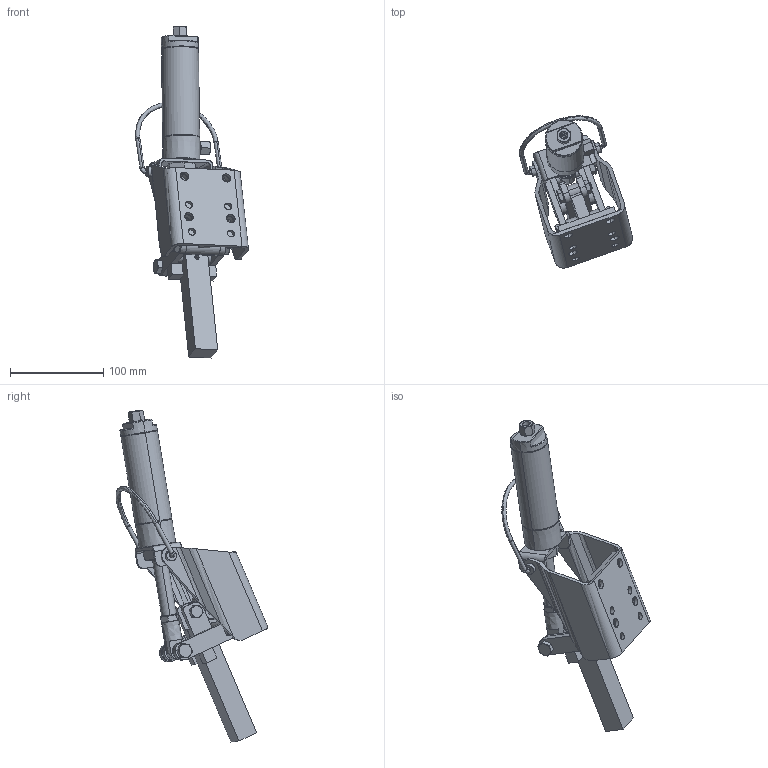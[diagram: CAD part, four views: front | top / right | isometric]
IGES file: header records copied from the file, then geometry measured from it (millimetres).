
Start section: XXXXXXXXXX IGES file using analytic representation for surfaces
Global section: file name: C:\XXXXXXXXXXXXXXXXXXXXXXXXXXXXXXXXXXXX402-HD.IGS; native system: XXXXXXXXXX XXX5 by XXXXXXXXXX Corporation; preprocessor: XXXXXXXXXX 2005 by XXXXXXXXXX Corporation; author: 7XXXXXXXXX; organization: 11; date: 060625.153135; units: inch
Bounding box: 121.14 x 162.92 x 355.86 mm (x, y, z)
Surface area: 167920.3 mm2 (no closed solid volume)
Topology: 0 solids, 0 shells, 606 faces, 10200 edges, 10200 vertices
Faces by surface type: revolution 357, bspline 249
